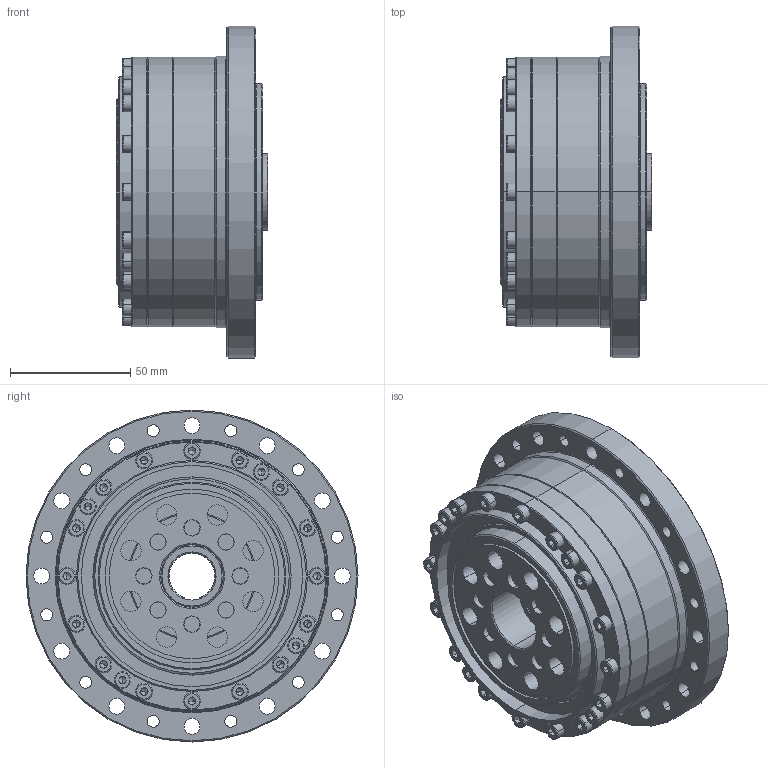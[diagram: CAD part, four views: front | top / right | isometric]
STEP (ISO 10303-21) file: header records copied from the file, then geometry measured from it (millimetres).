
FILE_DESCRIPTION (( 'STEP AP203' ), '1' );
FILE_NAME ('LCSG-32-50-C-II-S0.STEP', '2017-02-22T05:05:29', ( 'Windows 蚚誧' ), ( 'Users' ), 'SwSTEP 2.0', 'SolidWorks 2013', '' );
FILE_SCHEMA (( 'CONFIG_CONTROL_DESIGN' ));
Length unit declared in the file: millimetre
Products named in the file (17): LJ-32G-II; SZ-32G-II; LCSG-32-XXX-P04-II; LCSG-32-XXX-P03-II; LCSG-32-XXX-P02-II; DB-32G-II; LCSG-32-XXX-P01-II; RZC-32G内外圈+钢球; LCSG-32-XXX-P05-II; 疏楷汜ん32G-II; RZC-32悵厥殤; socket head cap screw_din_DIN 912 M8 x 25 --- 25N; LCSG-32-50-C-II-S0; 柔性轴承RZC-32G; socket head cap screw_din_内六角圆柱头螺钉M4 x 25; 轴径 32 （改）_GB_CONNECTING_PIECE_RINGS_CSB 32; socket head cap screw_din_内六角圆柱头螺钉M4 x 16
Assembly tree (41 placements, depth 4):
  LCSG-32-50-C-II-S0
    LCSG-32-XXX-P04-II
    LCSG-32-XXX-P02-II
    LCSG-32-XXX-P01-II
    LCSG-32-XXX-P05-II
    socket head cap screw_din_DIN 912 M8 x 25 --- 25N  x8
    socket head cap screw_din_内六角圆柱头螺钉M4 x 25  x16
    socket head cap screw_din_内六角圆柱头螺钉M4 x 16  x4
    疏楷汜ん32G-II
      LJ-32G-II
      SZ-32G-II
      LCSG-32-XXX-P03-II
      DB-32G-II
      柔性轴承RZC-32G
        RZC-32G内外圈+钢球
        RZC-32悵厥殤
      轴径 32 （改）_GB_CONNECTING_PIECE_RINGS_CSB 32
Bounding box: 63 x 138 x 138 mm (x, y, z)
Volume: 428796.1 mm3; surface area: 211609.3 mm2
Topology: 64 solids, 65 shells, 1501 faces, 3545 edges, 2143 vertices
Faces by surface type: plane 562, cylinder 500, cone 243, torus 150, sphere 46
Entity records: 27137 total; most frequent: DIRECTION 4822, CARTESIAN_POINT 4183, ORIENTED_EDGE 3884, AXIS2_PLACEMENT_3D 2048, EDGE_CURVE 1942, VERTEX_POINT 1249, CIRCLE 1176, EDGE_LOOP 1061
